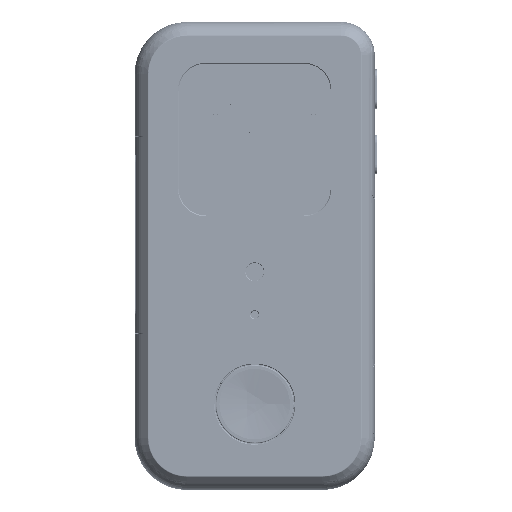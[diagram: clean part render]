
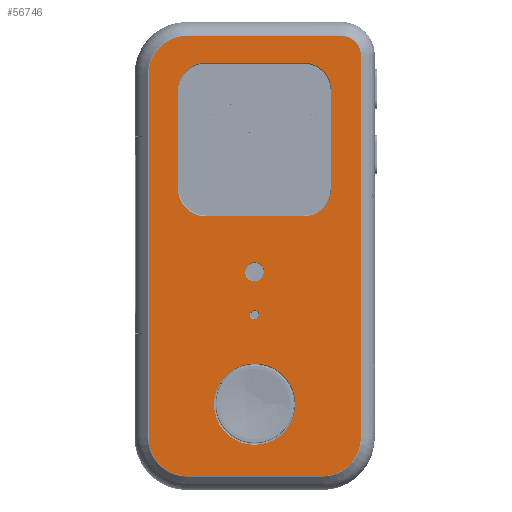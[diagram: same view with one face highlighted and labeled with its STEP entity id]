
A CAD part, top view. The second image highlights one B-rep face of the part: STEP entity #56746.
In plain terms, the highlighted planar face has unit normal (0, 0, 1).
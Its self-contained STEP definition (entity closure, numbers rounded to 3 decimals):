
#56214 = VERTEX_POINT('',#56215);
#56215 = CARTESIAN_POINT('',(21.,130.,19.4));
#56223 = VERTEX_POINT('',#56224);
#56224 = CARTESIAN_POINT('',(51.,130.,19.4));
#56230 = EDGE_CURVE('',#56214,#56223,#56231,.T.);
#56231 = LINE('',#56232,#56233);
#56232 = CARTESIAN_POINT('',(21.,130.,19.4));
#56233 = VECTOR('',#56234,1.);
#56234 = DIRECTION('',(1.,0.,0.));
#56679 = VERTEX_POINT('',#56680);
#56680 = CARTESIAN_POINT('',(59.5,121.5,19.4));
#56686 = EDGE_CURVE('',#56223,#56679,#56687,.T.);
#56687 = CIRCLE('',#56688,8.5);
#56688 = AXIS2_PLACEMENT_3D('',#56689,#56690,#56691);
#56689 = CARTESIAN_POINT('',(51.,121.5,19.4));
#56690 = DIRECTION('',(0.,0.,-1.));
#56691 = DIRECTION('',(0.,1.,0.));
#56726 = VERTEX_POINT('',#56727);
#56727 = CARTESIAN_POINT('',(12.5,121.5,19.4));
#56735 = EDGE_CURVE('',#56726,#56214,#56736,.T.);
#56736 = CIRCLE('',#56737,8.5);
#56737 = AXIS2_PLACEMENT_3D('',#56738,#56739,#56740);
#56738 = CARTESIAN_POINT('',(21.,121.5,19.4));
#56739 = DIRECTION('',(0.,0.,-1.));
#56740 = DIRECTION('',(-1.,0.,0.));
#56746 = ADVANCED_FACE('',(#56747,#56792,#56898,#56909,#56920),#56931,
  .T.);
#56747 = FACE_BOUND('',#56748,.T.);
#56748 = EDGE_LOOP('',(#56749,#56750,#56751,#56759,#56768,#56776,#56785,
    #56791));
#56749 = ORIENTED_EDGE('',*,*,#56230,.T.);
#56750 = ORIENTED_EDGE('',*,*,#56686,.T.);
#56751 = ORIENTED_EDGE('',*,*,#56752,.T.);
#56752 = EDGE_CURVE('',#56679,#56753,#56755,.T.);
#56753 = VERTEX_POINT('',#56754);
#56754 = CARTESIAN_POINT('',(59.5,91.5,19.4));
#56755 = LINE('',#56756,#56757);
#56756 = CARTESIAN_POINT('',(59.5,121.5,19.4));
#56757 = VECTOR('',#56758,1.);
#56758 = DIRECTION('',(0.,-1.,0.));
#56759 = ORIENTED_EDGE('',*,*,#56760,.T.);
#56760 = EDGE_CURVE('',#56753,#56761,#56763,.T.);
#56761 = VERTEX_POINT('',#56762);
#56762 = CARTESIAN_POINT('',(51.,83.,19.4));
#56763 = CIRCLE('',#56764,8.5);
#56764 = AXIS2_PLACEMENT_3D('',#56765,#56766,#56767);
#56765 = CARTESIAN_POINT('',(51.,91.5,19.4));
#56766 = DIRECTION('',(0.,0.,-1.));
#56767 = DIRECTION('',(1.,0.,0.));
#56768 = ORIENTED_EDGE('',*,*,#56769,.T.);
#56769 = EDGE_CURVE('',#56761,#56770,#56772,.T.);
#56770 = VERTEX_POINT('',#56771);
#56771 = CARTESIAN_POINT('',(21.,83.,19.4));
#56772 = LINE('',#56773,#56774);
#56773 = CARTESIAN_POINT('',(51.,83.,19.4));
#56774 = VECTOR('',#56775,1.);
#56775 = DIRECTION('',(-1.,-0.,-0.));
#56776 = ORIENTED_EDGE('',*,*,#56777,.T.);
#56777 = EDGE_CURVE('',#56770,#56778,#56780,.T.);
#56778 = VERTEX_POINT('',#56779);
#56779 = CARTESIAN_POINT('',(12.5,91.5,19.4));
#56780 = CIRCLE('',#56781,8.5);
#56781 = AXIS2_PLACEMENT_3D('',#56782,#56783,#56784);
#56782 = CARTESIAN_POINT('',(21.,91.5,19.4));
#56783 = DIRECTION('',(-0.,-0.,-1.));
#56784 = DIRECTION('',(0.,-1.,0.));
#56785 = ORIENTED_EDGE('',*,*,#56786,.T.);
#56786 = EDGE_CURVE('',#56778,#56726,#56787,.T.);
#56787 = LINE('',#56788,#56789);
#56788 = CARTESIAN_POINT('',(12.5,91.5,19.4));
#56789 = VECTOR('',#56790,1.);
#56790 = DIRECTION('',(0.,1.,0.));
#56791 = ORIENTED_EDGE('',*,*,#56735,.T.);
#56792 = FACE_BOUND('',#56793,.T.);
#56793 = EDGE_LOOP('',(#56794,#56805,#56813,#56822,#56830,#56839,#56847,
    #56856,#56864,#56873,#56882,#56891));
#56794 = ORIENTED_EDGE('',*,*,#56795,.F.);
#56795 = EDGE_CURVE('',#56796,#56798,#56800,.T.);
#56796 = VERTEX_POINT('',#56797);
#56797 = CARTESIAN_POINT('',(3.516,126.5,19.4));
#56798 = VERTEX_POINT('',#56799);
#56799 = CARTESIAN_POINT('',(3.516,126.541,19.4));
#56800 = CIRCLE('',#56801,11.734);
#56801 = AXIS2_PLACEMENT_3D('',#56802,#56803,#56804);
#56802 = CARTESIAN_POINT('',(15.25,126.5,19.4));
#56803 = DIRECTION('',(0.,-0.,-1.));
#56804 = DIRECTION('',(-1.,0.,0.));
#56805 = ORIENTED_EDGE('',*,*,#56806,.F.);
#56806 = EDGE_CURVE('',#56807,#56796,#56809,.T.);
#56807 = VERTEX_POINT('',#56808);
#56808 = CARTESIAN_POINT('',(3.516,15.25,19.4));
#56809 = LINE('',#56810,#56811);
#56810 = CARTESIAN_POINT('',(3.516,15.25,19.4));
#56811 = VECTOR('',#56812,1.);
#56812 = DIRECTION('',(0.,1.,0.));
#56813 = ORIENTED_EDGE('',*,*,#56814,.F.);
#56814 = EDGE_CURVE('',#56815,#56807,#56817,.T.);
#56815 = VERTEX_POINT('',#56816);
#56816 = CARTESIAN_POINT('',(15.25,3.516,19.4));
#56817 = CIRCLE('',#56818,11.734);
#56818 = AXIS2_PLACEMENT_3D('',#56819,#56820,#56821);
#56819 = CARTESIAN_POINT('',(15.25,15.25,19.4));
#56820 = DIRECTION('',(0.,-0.,-1.));
#56821 = DIRECTION('',(0.,-1.,0.));
#56822 = ORIENTED_EDGE('',*,*,#56823,.F.);
#56823 = EDGE_CURVE('',#56824,#56815,#56826,.T.);
#56824 = VERTEX_POINT('',#56825);
#56825 = CARTESIAN_POINT('',(56.75,3.516,19.4));
#56826 = LINE('',#56827,#56828);
#56827 = CARTESIAN_POINT('',(56.75,3.516,19.4));
#56828 = VECTOR('',#56829,1.);
#56829 = DIRECTION('',(-1.,0.,-0.));
#56830 = ORIENTED_EDGE('',*,*,#56831,.F.);
#56831 = EDGE_CURVE('',#56832,#56824,#56834,.T.);
#56832 = VERTEX_POINT('',#56833);
#56833 = CARTESIAN_POINT('',(68.484,15.25,19.4));
#56834 = CIRCLE('',#56835,11.734);
#56835 = AXIS2_PLACEMENT_3D('',#56836,#56837,#56838);
#56836 = CARTESIAN_POINT('',(56.75,15.25,19.4));
#56837 = DIRECTION('',(0.,0.,-1.));
#56838 = DIRECTION('',(1.,0.,0.));
#56839 = ORIENTED_EDGE('',*,*,#56840,.F.);
#56840 = EDGE_CURVE('',#56841,#56832,#56843,.T.);
#56841 = VERTEX_POINT('',#56842);
#56842 = CARTESIAN_POINT('',(68.484,132.25,19.4));
#56843 = LINE('',#56844,#56845);
#56844 = CARTESIAN_POINT('',(68.484,126.5,19.4));
#56845 = VECTOR('',#56846,1.);
#56846 = DIRECTION('',(0.,-1.,0.));
#56847 = ORIENTED_EDGE('',*,*,#56848,.F.);
#56848 = EDGE_CURVE('',#56849,#56841,#56851,.T.);
#56849 = VERTEX_POINT('',#56850);
#56850 = CARTESIAN_POINT('',(62.5,138.234,19.4));
#56851 = CIRCLE('',#56852,5.984);
#56852 = AXIS2_PLACEMENT_3D('',#56853,#56854,#56855);
#56853 = CARTESIAN_POINT('',(62.5,132.25,19.4));
#56854 = DIRECTION('',(0.,0.,-1.));
#56855 = DIRECTION('',(0.,1.,-0.));
#56856 = ORIENTED_EDGE('',*,*,#56857,.F.);
#56857 = EDGE_CURVE('',#56858,#56849,#56860,.T.);
#56858 = VERTEX_POINT('',#56859);
#56859 = CARTESIAN_POINT('',(15.25,138.234,19.4));
#56860 = LINE('',#56861,#56862);
#56861 = CARTESIAN_POINT('',(9.5,138.234,19.4));
#56862 = VECTOR('',#56863,1.);
#56863 = DIRECTION('',(1.,0.,0.));
#56864 = ORIENTED_EDGE('',*,*,#56865,.F.);
#56865 = EDGE_CURVE('',#56866,#56858,#56868,.T.);
#56866 = VERTEX_POINT('',#56867);
#56867 = CARTESIAN_POINT('',(3.678,128.443,19.4));
#56868 = CIRCLE('',#56869,11.734);
#56869 = AXIS2_PLACEMENT_3D('',#56870,#56871,#56872);
#56870 = CARTESIAN_POINT('',(15.25,126.5,19.4));
#56871 = DIRECTION('',(0.,-0.,-1.));
#56872 = DIRECTION('',(-1.,0.,0.));
#56873 = ORIENTED_EDGE('',*,*,#56874,.F.);
#56874 = EDGE_CURVE('',#56875,#56866,#56877,.T.);
#56875 = VERTEX_POINT('',#56876);
#56876 = CARTESIAN_POINT('',(3.605,127.943,19.4));
#56877 = CIRCLE('',#56878,11.734);
#56878 = AXIS2_PLACEMENT_3D('',#56879,#56880,#56881);
#56879 = CARTESIAN_POINT('',(15.25,126.5,19.4));
#56880 = DIRECTION('',(0.,-0.,-1.));
#56881 = DIRECTION('',(-1.,0.,0.));
#56882 = ORIENTED_EDGE('',*,*,#56883,.F.);
#56883 = EDGE_CURVE('',#56884,#56875,#56886,.T.);
#56884 = VERTEX_POINT('',#56885);
#56885 = CARTESIAN_POINT('',(3.531,127.08,19.4));
#56886 = CIRCLE('',#56887,11.734);
#56887 = AXIS2_PLACEMENT_3D('',#56888,#56889,#56890);
#56888 = CARTESIAN_POINT('',(15.25,126.5,19.4));
#56889 = DIRECTION('',(0.,0.,-1.));
#56890 = DIRECTION('',(-1.,0.,0.));
#56891 = ORIENTED_EDGE('',*,*,#56892,.F.);
#56892 = EDGE_CURVE('',#56798,#56884,#56893,.T.);
#56893 = CIRCLE('',#56894,11.734);
#56894 = AXIS2_PLACEMENT_3D('',#56895,#56896,#56897);
#56895 = CARTESIAN_POINT('',(15.25,126.5,19.4));
#56896 = DIRECTION('',(0.,-0.,-1.));
#56897 = DIRECTION('',(-1.,0.,0.));
#56898 = FACE_BOUND('',#56899,.T.);
#56899 = EDGE_LOOP('',(#56900));
#56900 = ORIENTED_EDGE('',*,*,#56901,.F.);
#56901 = EDGE_CURVE('',#56902,#56902,#56904,.T.);
#56902 = VERTEX_POINT('',#56903);
#56903 = CARTESIAN_POINT('',(48.45,25.5,19.4));
#56904 = CIRCLE('',#56905,12.45);
#56905 = AXIS2_PLACEMENT_3D('',#56906,#56907,#56908);
#56906 = CARTESIAN_POINT('',(36.,25.5,19.4));
#56907 = DIRECTION('',(0.,0.,1.));
#56908 = DIRECTION('',(1.,0.,0.));
#56909 = FACE_BOUND('',#56910,.T.);
#56910 = EDGE_LOOP('',(#56911));
#56911 = ORIENTED_EDGE('',*,*,#56912,.F.);
#56912 = EDGE_CURVE('',#56913,#56913,#56915,.T.);
#56913 = VERTEX_POINT('',#56914);
#56914 = CARTESIAN_POINT('',(38.9,66.,19.4));
#56915 = CIRCLE('',#56916,2.9);
#56916 = AXIS2_PLACEMENT_3D('',#56917,#56918,#56919);
#56917 = CARTESIAN_POINT('',(36.,66.,19.4));
#56918 = DIRECTION('',(0.,0.,1.));
#56919 = DIRECTION('',(1.,0.,0.));
#56920 = FACE_BOUND('',#56921,.T.);
#56921 = EDGE_LOOP('',(#56922));
#56922 = ORIENTED_EDGE('',*,*,#56923,.F.);
#56923 = EDGE_CURVE('',#56924,#56924,#56926,.T.);
#56924 = VERTEX_POINT('',#56925);
#56925 = CARTESIAN_POINT('',(37.4,52.875,19.4));
#56926 = CIRCLE('',#56927,1.4);
#56927 = AXIS2_PLACEMENT_3D('',#56928,#56929,#56930);
#56928 = CARTESIAN_POINT('',(36.,52.875,19.4));
#56929 = DIRECTION('',(0.,0.,1.));
#56930 = DIRECTION('',(1.,0.,0.));
#56931 = PLANE('',#56932);
#56932 = AXIS2_PLACEMENT_3D('',#56933,#56934,#56935);
#56933 = CARTESIAN_POINT('',(36.235,71.364,19.4));
#56934 = DIRECTION('',(0.,0.,1.));
#56935 = DIRECTION('',(1.,0.,0.));
